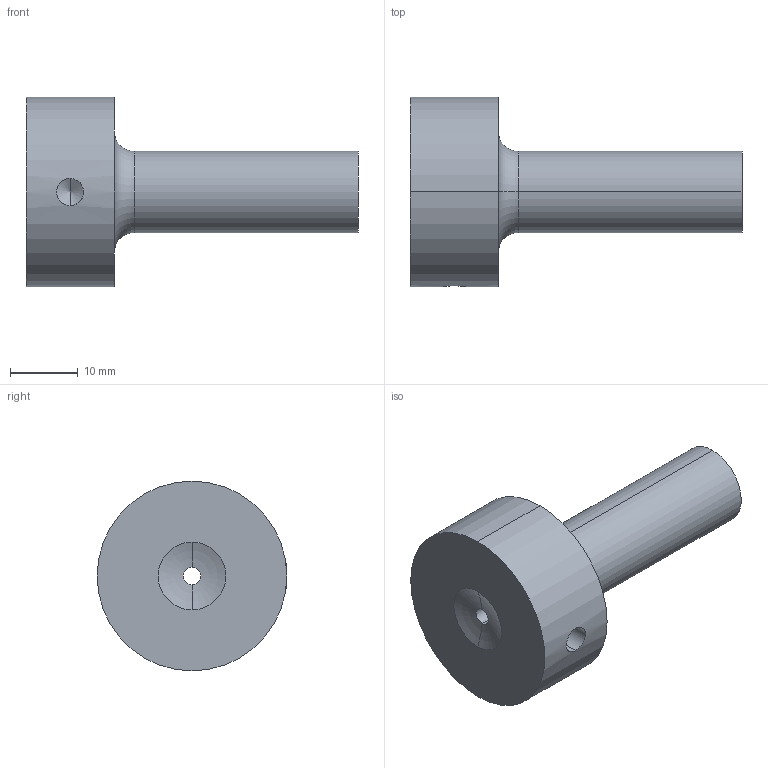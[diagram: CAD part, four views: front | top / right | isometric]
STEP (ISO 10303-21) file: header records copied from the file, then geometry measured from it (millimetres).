
FILE_DESCRIPTION (( 'STEP AP214' ), '1' );
FILE_NAME ('BR511 12X36X2,5X15,5.STEP', '2019-12-11T08:15:18', ( 'August' ), ( '' ), 'SwSTEP 2.0', 'SolidWorks 2018', '' );
FILE_SCHEMA (( 'AUTOMOTIVE_DESIGN' ));
Length unit declared in the file: millimetre
Products named in the file (1): BR511 12X36X2,5X15,5
Bounding box: 49 x 28 x 28 mm (x, y, z)
Volume: 11601.4 mm3; surface area: 4257.3 mm2
Topology: 1 solids, 1 shells, 17 faces, 36 edges, 21 vertices
Faces by surface type: cylinder 6, cone 4, torus 4, plane 3
Entity records: 538 total; most frequent: CARTESIAN_POINT 127, DIRECTION 90, ORIENTED_EDGE 68, AXIS2_PLACEMENT_3D 40, EDGE_CURVE 34, CIRCLE 22, EDGE_LOOP 21, VERTEX_POINT 21
